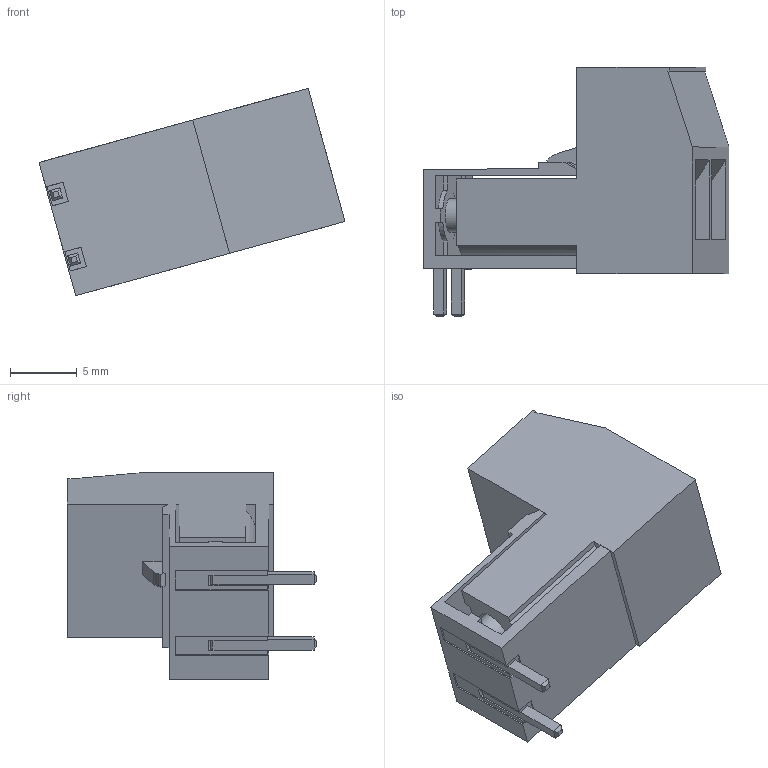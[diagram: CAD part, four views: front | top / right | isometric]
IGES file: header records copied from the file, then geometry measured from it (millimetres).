
Global section: file name: Terminal Connector v1; native system: unknown; preprocessor: unknown; author: unknown; organization: unknown; date: 20190819.141657; units: millimetre
Bounding box: 23.01 x 18.75 x 15.6 mm (x, y, z)
Volume: 1829.4 mm3; surface area: 2549.7 mm2
Topology: 6 solids, 6 shells, 211 faces, 549 edges, 364 vertices
Faces by surface type: bspline 211
